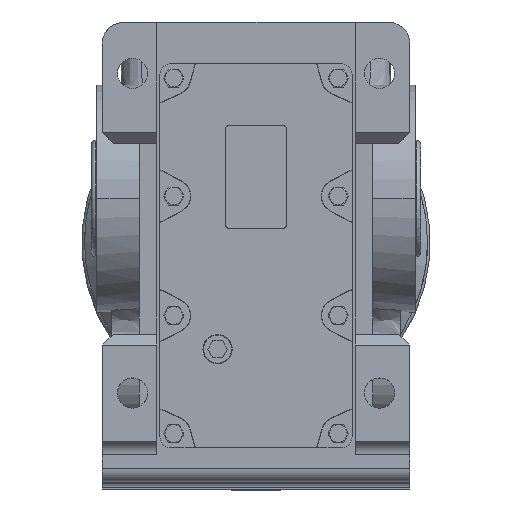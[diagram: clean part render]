
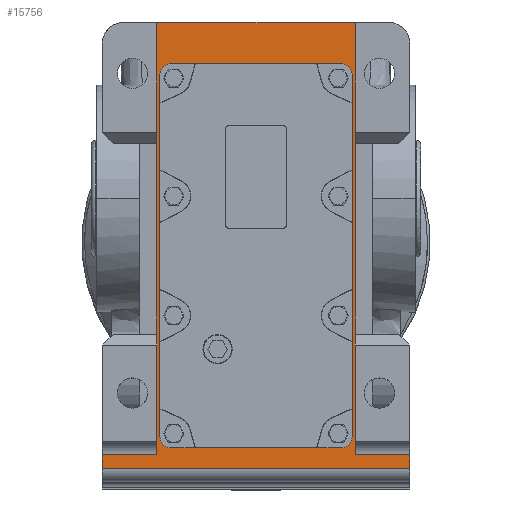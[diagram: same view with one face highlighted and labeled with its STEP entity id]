
A CAD part, top view. The second image highlights one B-rep face of the part: STEP entity #15756.
In plain terms, the highlighted planar face has unit normal (0, 0, 1).
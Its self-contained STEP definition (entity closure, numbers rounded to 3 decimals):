
#2922 = ORIENTED_EDGE ( 'NONE', *, *, #48840, .F. ) ;
#2923 = ORIENTED_EDGE ( 'NONE', *, *, #48871, .F. ) ;
#2924 = ORIENTED_EDGE ( 'NONE', *, *, #48500, .F. ) ;
#2925 = ORIENTED_EDGE ( 'NONE', *, *, #48849, .F. ) ;
#2926 = ORIENTED_EDGE ( 'NONE', *, *, #48523, .F. ) ;
#2927 = ORIENTED_EDGE ( 'NONE', *, *, #48839, .F. ) ;
#2928 = ORIENTED_EDGE ( 'NONE', *, *, #48564, .F. ) ;
#2929 = ORIENTED_EDGE ( 'NONE', *, *, #48571, .F. ) ;
#2930 = ORIENTED_EDGE ( 'NONE', *, *, #49292, .F. ) ;
#2931 = ORIENTED_EDGE ( 'NONE', *, *, #49287, .F. ) ;
#2932 = ORIENTED_EDGE ( 'NONE', *, *, #49288, .F. ) ;
#2933 = ORIENTED_EDGE ( 'NONE', *, *, #49635, .F. ) ;
#2934 = ORIENTED_EDGE ( 'NONE', *, *, #49630, .F. ) ;
#2935 = ORIENTED_EDGE ( 'NONE', *, *, #48268, .F. ) ;
#2936 = ORIENTED_EDGE ( 'NONE', *, *, #49293, .F. ) ;
#2937 = ORIENTED_EDGE ( 'NONE', *, *, #49283, .F. ) ;
#5896 = CARTESIAN_POINT ( 'NONE',  ( -72.5, -212., 111. ) ) ;
#5904 = CARTESIAN_POINT ( 'NONE',  ( -72.5, -187., 111. ) ) ;
#5907 = DIRECTION ( 'NONE',  ( 1., 0., 0. ) ) ;
#5929 = DIRECTION ( 'NONE',  ( 0., 1., 0. ) ) ;
#15756 = ADVANCED_FACE ( 'NONE', ( #33754, #33760 ), #20723, .F. ) ;
#18017 = LINE ( 'NONE', #5904, #18020 ) ;
#18020 = VECTOR ( 'NONE', #5907, 1000. ) ;
#18023 = LINE ( 'NONE', #5896, #18029 ) ;
#18029 = VECTOR ( 'NONE', #5929, 1000. ) ;
#20719 = DIRECTION ( 'NONE',  ( 0., 1., 0. ) ) ;
#20720 = DIRECTION ( 'NONE',  ( 0., 0., -1. ) ) ;
#20723 = PLANE ( 'NONE',  #52117 ) ;
#20737 = CARTESIAN_POINT ( 'NONE',  ( -72.5, -212., 111. ) ) ;
#25267 = CARTESIAN_POINT ( 'NONE',  ( -62., -174., 111. ) ) ;
#25269 = DIRECTION ( 'NONE',  ( 0., 0., 1. ) ) ;
#25271 = DIRECTION ( 'NONE',  ( 1., 0., 0. ) ) ;
#25410 = CARTESIAN_POINT ( 'NONE',  ( -62., 90., 111. ) ) ;
#25411 = DIRECTION ( 'NONE',  ( 0., 0., 1. ) ) ;
#25412 = DIRECTION ( 'NONE',  ( -1., 0., 0. ) ) ;
#25559 = CARTESIAN_POINT ( 'NONE',  ( 62., 90., 111. ) ) ;
#25560 = DIRECTION ( 'NONE',  ( 0., 0., 1. ) ) ;
#25561 = DIRECTION ( 'NONE',  ( 1., 0., 0. ) ) ;
#25571 = CARTESIAN_POINT ( 'NONE',  ( 70., 90., 111. ) ) ;
#25572 = DIRECTION ( 'NONE',  ( 0., 1., 0. ) ) ;
#26258 = VERTEX_POINT ( 'NONE', #53049 ) ;
#26259 = VERTEX_POINT ( 'NONE', #53048 ) ;
#26260 = VERTEX_POINT ( 'NONE', #53047 ) ;
#26261 = VERTEX_POINT ( 'NONE', #53046 ) ;
#26262 = VERTEX_POINT ( 'NONE', #53045 ) ;
#26264 = VERTEX_POINT ( 'NONE', #53043 ) ;
#26265 = VERTEX_POINT ( 'NONE', #53042 ) ;
#26266 = VERTEX_POINT ( 'NONE', #53041 ) ;
#26283 = VERTEX_POINT ( 'NONE', #53022 ) ;
#26303 = VERTEX_POINT ( 'NONE', #52998 ) ;
#26317 = VERTEX_POINT ( 'NONE', #52981 ) ;
#26320 = VERTEX_POINT ( 'NONE', #52978 ) ;
#26321 = VERTEX_POINT ( 'NONE', #52977 ) ;
#26325 = VERTEX_POINT ( 'NONE', #52973 ) ;
#26327 = VERTEX_POINT ( 'NONE', #52971 ) ;
#26330 = VERTEX_POINT ( 'NONE', #52968 ) ;
#28277 = AXIS2_PLACEMENT_3D ( 'NONE', #41627, #41628, #41629 ) ;
#28348 = AXIS2_PLACEMENT_3D ( 'NONE', #25559, #25560, #25561 ) ;
#28360 = AXIS2_PLACEMENT_3D ( 'NONE', #25410, #25411, #25412 ) ;
#28365 = AXIS2_PLACEMENT_3D ( 'NONE', #25267, #25269, #25271 ) ;
#30436 = CARTESIAN_POINT ( 'NONE',  ( -112., -212., 111. ) ) ;
#30438 = DIRECTION ( 'NONE',  ( 0., 1., 0. ) ) ;
#30953 = EDGE_LOOP ( 'NONE', ( #2930, #2931, #2932, #2933, #2934, #2935, #2936, #2937 ) ) ;
#31012 = EDGE_LOOP ( 'NONE', ( #2922, #2923, #2924, #2925, #2926, #2927, #2928, #2929 ) ) ;
#33754 = FACE_BOUND ( 'NONE', #31012, .T. ) ;
#33760 = FACE_OUTER_BOUND ( 'NONE', #30953, .T. ) ;
#35659 = LINE ( 'NONE', #30436, #35661 ) ;
#35661 = VECTOR ( 'NONE', #30438, 1000. ) ;
#36012 = CIRCLE ( 'NONE', #28365, 8. ) ;
#36053 = CIRCLE ( 'NONE', #28360, 8. ) ;
#36119 = CIRCLE ( 'NONE', #28348, 8. ) ;
#36131 = LINE ( 'NONE', #25571, #36134 ) ;
#36134 = VECTOR ( 'NONE', #25572, 1000. ) ;
#38755 = CARTESIAN_POINT ( 'NONE',  ( 112., -212., 111. ) ) ;
#38756 = DIRECTION ( 'NONE',  ( 0., -1., 0. ) ) ;
#38760 = CARTESIAN_POINT ( 'NONE',  ( -72.5, 128., 111. ) ) ;
#38771 = CARTESIAN_POINT ( 'NONE',  ( 72.5, -212., 111. ) ) ;
#38773 = DIRECTION ( 'NONE',  ( 0., -1., 0. ) ) ;
#38774 = DIRECTION ( 'NONE',  ( 1., 0., 0. ) ) ;
#38780 = CARTESIAN_POINT ( 'NONE',  ( -72.5, -197., 111. ) ) ;
#38831 = CARTESIAN_POINT ( 'NONE',  ( -72.5, -187., 111. ) ) ;
#38833 = DIRECTION ( 'NONE',  ( 1., 0., 0. ) ) ;
#38834 = DIRECTION ( 'NONE',  ( -1., 0., 0. ) ) ;
#41623 = CARTESIAN_POINT ( 'NONE',  ( 62., 98., 111. ) ) ;
#41624 = DIRECTION ( 'NONE',  ( -1., 0., 0. ) ) ;
#41627 = CARTESIAN_POINT ( 'NONE',  ( 62., -174., 111. ) ) ;
#41628 = DIRECTION ( 'NONE',  ( 0., 0., 1. ) ) ;
#41629 = DIRECTION ( 'NONE',  ( 1., 0., 0. ) ) ;
#41687 = CARTESIAN_POINT ( 'NONE',  ( -70., 90., 111. ) ) ;
#41688 = DIRECTION ( 'NONE',  ( 0., -1., 0. ) ) ;
#41785 = CARTESIAN_POINT ( 'NONE',  ( 62., -182., 111. ) ) ;
#41786 = DIRECTION ( 'NONE',  ( 1., 0., 0. ) ) ;
#45291 = LINE ( 'NONE', #41623, #45295 ) ;
#45294 = CIRCLE ( 'NONE', #28277, 8. ) ;
#45295 = VECTOR ( 'NONE', #41624, 1000. ) ;
#45310 = LINE ( 'NONE', #41687, #45313 ) ;
#45313 = VECTOR ( 'NONE', #41688, 1000. ) ;
#45356 = LINE ( 'NONE', #41785, #45368 ) ;
#45368 = VECTOR ( 'NONE', #41786, 1000. ) ;
#45981 = LINE ( 'NONE', #38755, #45983 ) ;
#45983 = VECTOR ( 'NONE', #38756, 1000. ) ;
#45986 = LINE ( 'NONE', #38760, #45993 ) ;
#45988 = LINE ( 'NONE', #38771, #45991 ) ;
#45990 = LINE ( 'NONE', #38780, #46000 ) ;
#45991 = VECTOR ( 'NONE', #38773, 1000. ) ;
#45993 = VECTOR ( 'NONE', #38774, 1000. ) ;
#45997 = LINE ( 'NONE', #38831, #45998 ) ;
#45998 = VECTOR ( 'NONE', #38833, 1000. ) ;
#46000 = VECTOR ( 'NONE', #38834, 1000. ) ;
#48268 = EDGE_CURVE ( 'NONE', #26259, #26261, #35659, .T. ) ;
#48500 = EDGE_CURVE ( 'NONE', #26303, #26283, #36012, .T. ) ;
#48523 = EDGE_CURVE ( 'NONE', #26320, #26317, #36053, .T. ) ;
#48564 = EDGE_CURVE ( 'NONE', #26330, #26321, #36119, .T. ) ;
#48571 = EDGE_CURVE ( 'NONE', #26325, #26330, #36131, .T. ) ;
#48839 = EDGE_CURVE ( 'NONE', #26321, #26320, #45291, .T. ) ;
#48840 = EDGE_CURVE ( 'NONE', #26327, #26325, #45294, .T. ) ;
#48849 = EDGE_CURVE ( 'NONE', #26317, #26303, #45310, .T. ) ;
#48871 = EDGE_CURVE ( 'NONE', #26283, #26327, #45356, .T. ) ;
#49283 = EDGE_CURVE ( 'NONE', #26260, #26262, #45981, .T. ) ;
#49287 = EDGE_CURVE ( 'NONE', #26266, #26264, #45988, .T. ) ;
#49288 = EDGE_CURVE ( 'NONE', #26265, #26266, #45986, .T. ) ;
#49292 = EDGE_CURVE ( 'NONE', #26264, #26260, #45997, .T. ) ;
#49293 = EDGE_CURVE ( 'NONE', #26262, #26259, #45990, .T. ) ;
#49630 = EDGE_CURVE ( 'NONE', #26261, #26258, #18017, .T. ) ;
#49635 = EDGE_CURVE ( 'NONE', #26258, #26265, #18023, .T. ) ;
#52117 = AXIS2_PLACEMENT_3D ( 'NONE', #20737, #20720, #20719 ) ;
#52968 = CARTESIAN_POINT ( 'NONE',  ( 70., 90., 111. ) ) ;
#52971 = CARTESIAN_POINT ( 'NONE',  ( 62., -182., 111. ) ) ;
#52973 = CARTESIAN_POINT ( 'NONE',  ( 70., -174., 111. ) ) ;
#52977 = CARTESIAN_POINT ( 'NONE',  ( 62., 98., 111. ) ) ;
#52978 = CARTESIAN_POINT ( 'NONE',  ( -62., 98., 111. ) ) ;
#52981 = CARTESIAN_POINT ( 'NONE',  ( -70., 90., 111. ) ) ;
#52998 = CARTESIAN_POINT ( 'NONE',  ( -70., -174., 111. ) ) ;
#53022 = CARTESIAN_POINT ( 'NONE',  ( -62., -182., 111. ) ) ;
#53041 = CARTESIAN_POINT ( 'NONE',  ( 72.5, 128., 111. ) ) ;
#53042 = CARTESIAN_POINT ( 'NONE',  ( -72.5, 128., 111. ) ) ;
#53043 = CARTESIAN_POINT ( 'NONE',  ( 72.5, -187., 111. ) ) ;
#53045 = CARTESIAN_POINT ( 'NONE',  ( 112., -197., 111. ) ) ;
#53046 = CARTESIAN_POINT ( 'NONE',  ( -112., -187., 111. ) ) ;
#53047 = CARTESIAN_POINT ( 'NONE',  ( 112., -187., 111. ) ) ;
#53048 = CARTESIAN_POINT ( 'NONE',  ( -112., -197., 111. ) ) ;
#53049 = CARTESIAN_POINT ( 'NONE',  ( -72.5, -187., 111. ) ) ;
